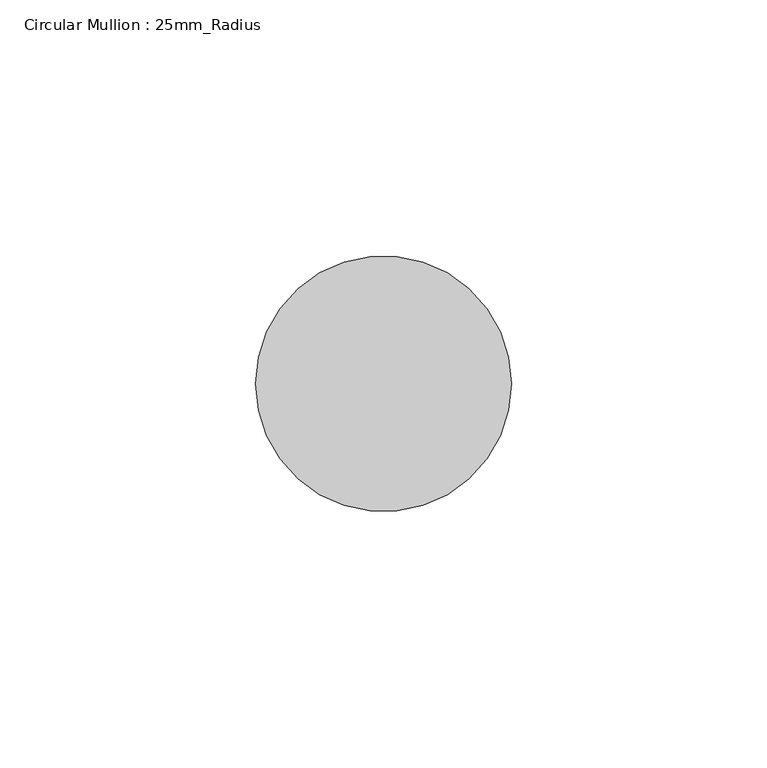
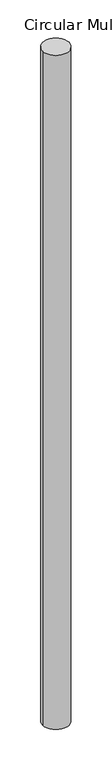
"""IFC4 building model written with IfcOpenShell, lengths in millimetres: member geometry, Circular Mullion : 25mm_Radius."""

from ifc_helpers import new_model, si_unit, point, frame, frame_2d, origin, place, context, project, spatial, circle_curve, trimmed, segment, composite_curve, outline, extrude, source, transform, mapped, element, save


def circular_mullion_25mm_radius_2e34d8f4(model_context):
    return source(origin(), model_context, "Body", "SweptSolid", [
        extrude(outline(composite_curve([segment(trimmed(circle_curve(frame_2d((-25.0, 0.0)), 25.0), [point((0.0, 0.0))], [point((-50.0, 0.0))], False, "CARTESIAN"), True, "CONTINUOUS"), segment(trimmed(circle_curve(frame_2d((-25.0, 0.0)), 25.0), [point((-50.0, 0.0))], [point((0.0, 0.0))], False, "CARTESIAN"), True, "CONTINUOUS")], self_intersect=False)), frame((0.0, 0.0, -1346.7743851), z_axis=(0.0, 0.0, 1.0), x_axis=(1.0, 0.0, 0.0)), (0.0, 0.0, 1.0), 1346.7743851),
    ])


if __name__ == "__main__":
    model = new_model("IFC4")
    model_context = context("Model", 3, world=origin())
    ifc_project = project(units=[si_unit("LENGTHUNIT", "METRE", prefix="MILLI")], contexts=[model_context])
    site = spatial("IfcSite", under=ifc_project)
    building = spatial("IfcBuilding", under=site)
    placement = place(None, origin())
    circular_mullion_25mm_radius_shape = circular_mullion_25mm_radius_2e34d8f4(model_context)
    element("IfcMember", 1, ObjectType="Circular Mullion : 25mm_Radius", at=placement, inside=building, context=model_context, shape_type="MappedRepresentation", body=[
        mapped(circular_mullion_25mm_radius_shape, transform((0.0, 0.0, 0.0), x_axis=(1.0, 0.0, 0.0), y_axis=(0.0, 1.0, 0.0), z_axis=(0.0, 0.0, 1.0))),
    ])
    save(model, "model.ifc")
